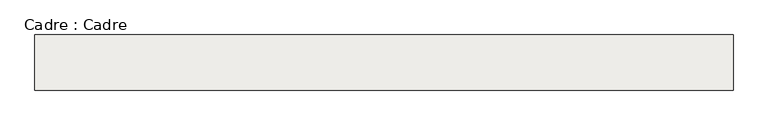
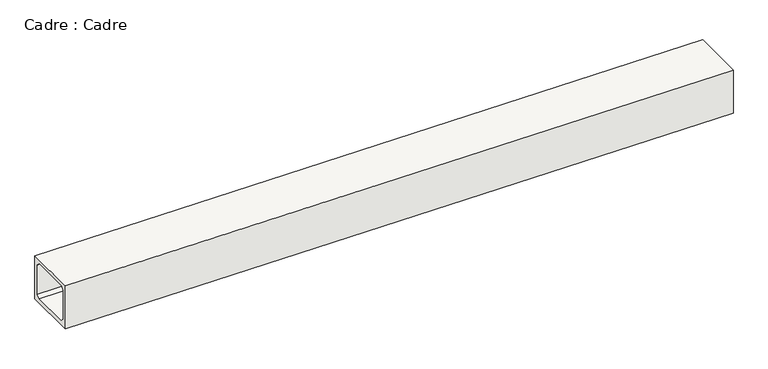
"""IFC4 building model written with IfcOpenShell, lengths in millimetres: slab geometry, Cadre : Cadre."""

from ifc_helpers import new_model, si_unit, origin, place, context, project, spatial, faceted_brep, source, transform, mapped, element, save


def cadre_cadre_8078ba86(model_context):
    return source(origin(), model_context, "Body", "Brep", [
        faceted_brep([(26860.0, -1800.0, 156406.0), (26860.0, -1800.0, 153306.0), (26860.0, 1800.0, 153306.0), (26860.0, 1800.0, 156406.0), (26860.0, -1300.0, 156106.0), (26860.0, 1300.0, 156106.0), (26860.0, 1500.0, 155906.0), (26860.0, 1500.0, 153806.0), (26860.0, 1300.0, 153606.0), (26860.0, -1300.0, 153606.0), (26860.0, -1500.0, 153806.0), (26860.0, -1500.0, 155906.0), (-18700.0, -1800.0, 156758.0), (-18700.0, 1800.0, 156758.0), (-18700.0, 1800.0, 153658.0), (-18700.0, -1800.0, 153658.0), (-18700.0, 1300.0, 156458.0), (-18700.0, -1300.0, 156458.0), (-18700.0, -1500.0, 156258.0), (-18700.0, -1500.0, 154158.0), (-18700.0, -1300.0, 153958.0), (-18700.0, 1300.0, 153958.0), (-18700.0, 1500.0, 154158.0), (-18700.0, 1500.0, 156258.0)], [[[0, 1, 2, 3], [4, 5, 6, 7, 8, 9, 10, 11]], [[12, 13, 14, 15], [16, 17, 18, 19, 20, 21, 22, 23]], [[1, 0, 12, 15]], [[2, 1, 15, 14]], [[3, 2, 14, 13]], [[0, 3, 13, 12]], [[16, 5, 4, 17]], [[17, 4, 11, 18]], [[18, 11, 10, 19]], [[19, 10, 9, 20]], [[20, 9, 8, 21]], [[21, 8, 7, 22]], [[22, 7, 6, 23]], [[5, 16, 23, 6]]]),
    ])


if __name__ == "__main__":
    model = new_model("IFC4")
    model_context = context("Model", 3, world=origin())
    ifc_project = project(units=[si_unit("LENGTHUNIT", "METRE", prefix="MILLI")], contexts=[model_context])
    site = spatial("IfcSite", under=ifc_project)
    building = spatial("IfcBuilding", under=site)
    placement = place(None, origin())
    cadre_cadre_shape = cadre_cadre_8078ba86(model_context)
    element("IfcSlab", 1, ObjectType="Cadre : Cadre", at=placement, inside=building, context=model_context, shape_type="MappedRepresentation", body=[
        mapped(cadre_cadre_shape, transform((0.0, 0.0, 0.0), x_axis=(1.0, 0.0, 0.0), y_axis=(0.0, 1.0, 0.0), z_axis=(0.0, 0.0, 1.0))),
    ])
    save(model, "model.ifc")
